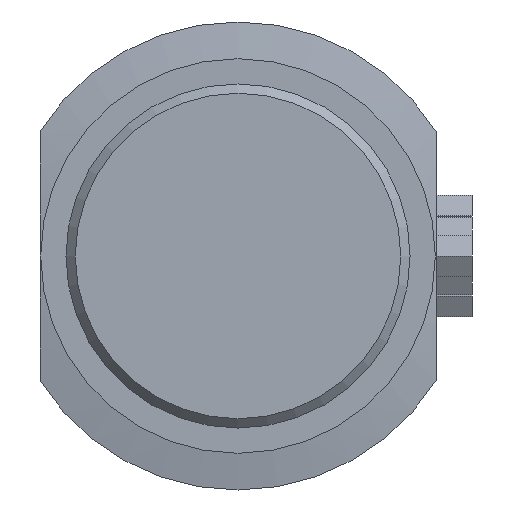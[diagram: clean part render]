
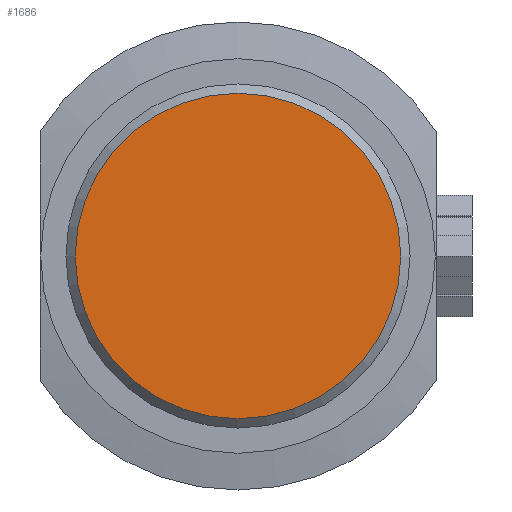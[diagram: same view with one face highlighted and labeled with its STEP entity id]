
A CAD part, left-side view. The second image highlights one B-rep face of the part: STEP entity #1686.
In plain terms, the highlighted planar face has unit normal (-1, 0, 0).
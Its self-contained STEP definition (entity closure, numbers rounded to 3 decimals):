
#174=FACE_OUTER_BOUND('',#288,.T.);
#288=EDGE_LOOP('',(#1397));
#646=CIRCLE('',#1837,22.6);
#784=VERTEX_POINT('',#2781);
#994=EDGE_CURVE('',#784,#784,#646,.T.);
#1397=ORIENTED_EDGE('',*,*,#994,.F.);
#1505=PLANE('',#1836);
#1686=ADVANCED_FACE('',(#174),#1505,.T.);
#1836=AXIS2_PLACEMENT_3D('',#2780,#2266,#2267);
#1837=AXIS2_PLACEMENT_3D('',#2782,#2268,#2269);
#2266=DIRECTION('center_axis',(-1.,0.,0.));
#2267=DIRECTION('ref_axis',(0.,0.,1.));
#2268=DIRECTION('center_axis',(1.,0.,0.));
#2269=DIRECTION('ref_axis',(0.,-1.,0.));
#2780=CARTESIAN_POINT('Origin',(0.,20.094,
0.));
#2781=CARTESIAN_POINT('',(0.,22.6,0.));
#2782=CARTESIAN_POINT('Origin',(0.,0.,0.));
